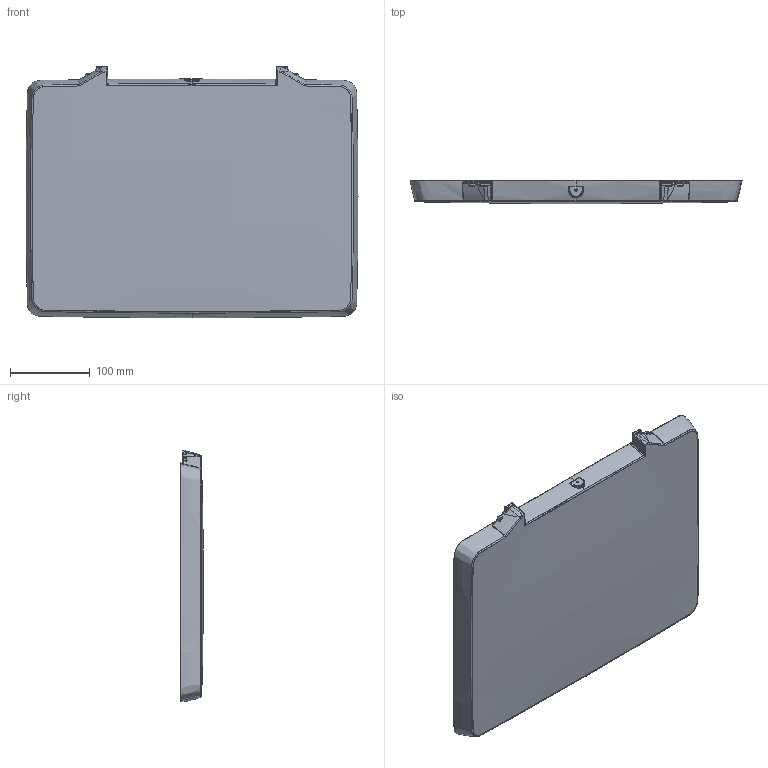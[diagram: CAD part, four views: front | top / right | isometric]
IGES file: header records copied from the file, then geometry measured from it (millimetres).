
Start section: SolidWorks IGES file using analytic representation for surfaces
Global section: file name: C:\Working\1095 CASE\New folder\1091-932B-CLR OEM.IGS; native system: SolidWorks 2011; preprocessor: SolidWorks 2011; author: mhakami; date: 130327.131544; units: millimetre
Bounding box: 416.28 x 28.68 x 315.45 mm (x, y, z)
Surface area: 307319.5 mm2 (no closed solid volume)
Topology: 0 solids, 0 shells, 330 faces, 3348 edges, 3343 vertices
Faces by surface type: bspline 328, revolution 2
